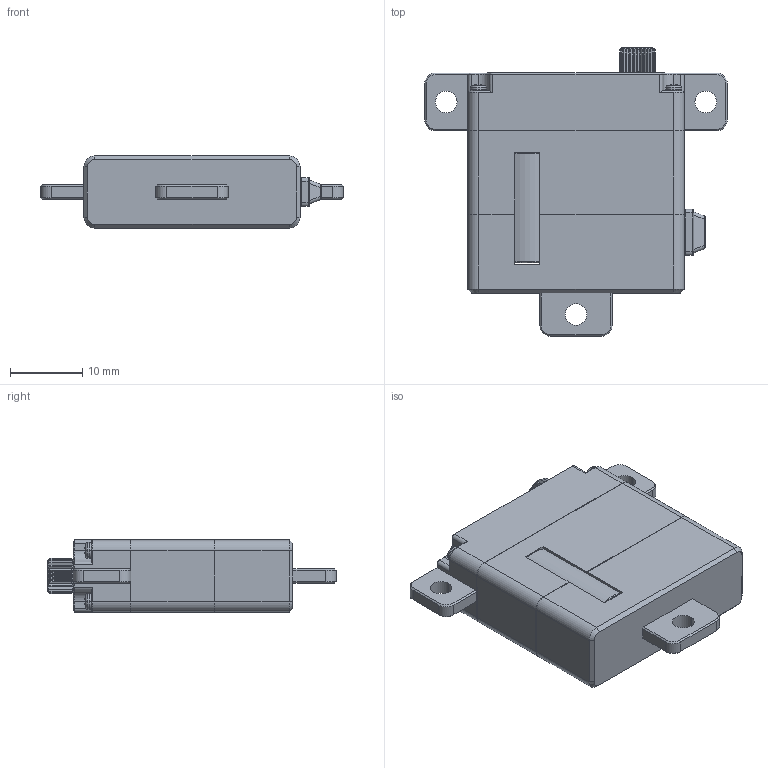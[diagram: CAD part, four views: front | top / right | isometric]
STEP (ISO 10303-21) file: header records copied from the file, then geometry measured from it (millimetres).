
FILE_DESCRIPTION((''),'2;1');
FILE_NAME('RS8V84SMC','2024-12-25T',('扂'),(''),'PRO/ENGINEER BY PARAMETRIC TECHNOLOGY CORPORATION, 2010280','PRO/ENGINEER BY PARAMETRIC TECHNOLOGY CORPORATION, 2010280','');
FILE_SCHEMA(('CONFIG_CONTROL_DESIGN'));
Length unit declared in the file: millimetre
Products named in the file (1): DDJ-WING-A24CHR
Bounding box: 42 x 40 x 10 mm (x, y, z)
Volume: 9309.9 mm3; surface area: 3765.4 mm2
Topology: 1 solids, 1 shells, 631 faces, 1731 edges, 1102 vertices
Faces by surface type: plane 290, cylinder 203, cone 86, torus 28, bspline 16, sphere 8
Entity records: 23416 total; most frequent: CARTESIAN_POINT 7620, ORIENTED_EDGE 3450, DIRECTION 3158, EDGE_CURVE 1725, AXIS2_PLACEMENT_3D 1128, VERTEX_POINT 1102, VECTOR 902, LINE 902
